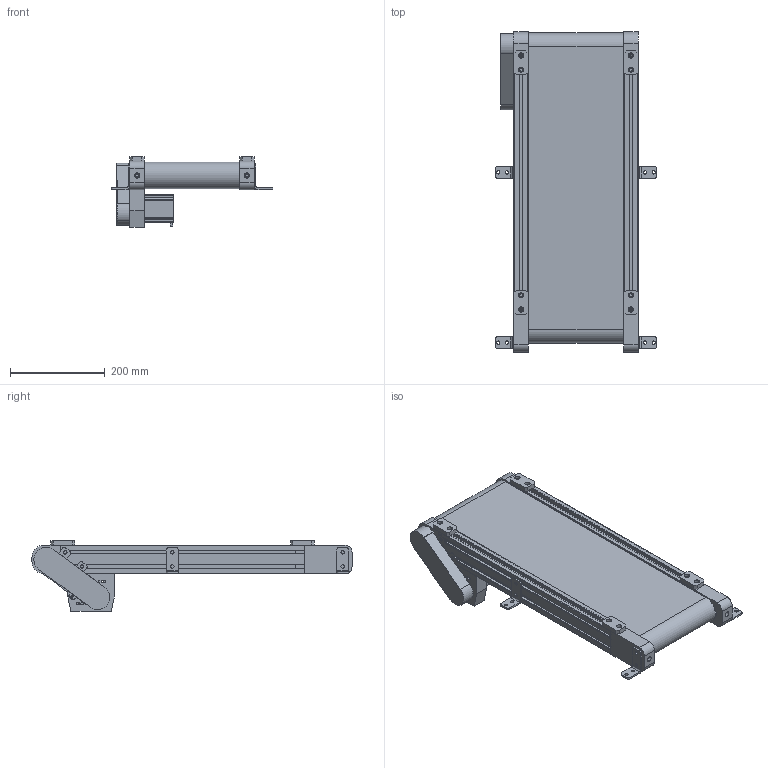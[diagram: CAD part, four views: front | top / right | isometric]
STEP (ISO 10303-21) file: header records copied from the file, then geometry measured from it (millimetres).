
FILE_DESCRIPTION(/* description */ (''),/* implementation_level */ '2;1');
FILE_NAME(/* name */ 'beltconveyor_a027_w200_l600.stp',/* time_stamp */ '2024-12-16T23:48:44+08:00',/* author */ (''),/* organization */ (''),/* preprocessor_version */ 'ST-DEVELOPER v16.7',/* originating_system */ 'SIEMENS PLM Software NX 12.0',/* authorisation */ '');
FILE_SCHEMA (('AUTOMOTIVE_DESIGN { 1 0 10303 214 3 1 1 1 }'));
Products named in the file (20): F03-P007安装座; F03-P002调整座(对称); F03-P006滚筒; F03-P003垫片; F03-N001铝型材HFS6-3060-517(MISUMI); F03-N005同步带轮HTPA25S5M100-A-P17(MISUM
I); angular contact ball bearings gb_Rolling bearings S7203 GB 292-94; F03-P002调整座; F03-P009封盖; F03-N007同步带HTBN360S5M-100(MISUMI); F03-P001轴; F03-N004同步带轮HTPA25S5M100-A-P8(MISUMI
); F03-P008罩子; F03-P004马达固定板; F03-P007安装座(对称); F03-P010支座; F03-P011连接块; F03-N002皮带L=1365 W=800 T=2; F03-N003步进电机YK60HB86-03A(YAKO); beltconveyor_a027_w200_l600
Assembly tree (29 placements, depth 2):
  beltconveyor_a027_w200_l600
    F03-N003步进电机YK60HB86-03A(YAKO)
    F03-N002皮带L=1365 W=800 T=2
    F03-P011连接块  x4
    F03-P010支座  x4
    F03-P007安装座(对称)
    F03-P004马达固定板
    F03-P008罩子
    F03-N004同步带轮HTPA25S5M100-A-P8(MISUMI
)
    F03-P001轴
    F03-N007同步带HTBN360S5M-100(MISUMI)
    F03-P009封盖
    F03-P002调整座
    angular contact ball bearings gb_Rolling bearings S7203 GB 292-94  x4
    F03-N005同步带轮HTPA25S5M100-A-P17(MISUM
I)
    F03-N001铝型材HFS6-3060-517(MISUMI)  x2
    F03-P003垫片
    F03-P006滚筒
    F03-P002调整座(对称)
    F03-P007安装座
Bounding box: 342.5 x 677 x 150 mm (x, y, z)
Volume: 2783217.2 mm3; surface area: 1796946.5 mm2
Topology: 65 solids, 65 shells, 2305 faces, 6983 edges, 4623 vertices
Faces by surface type: cylinder 802, plane 768, extrusion 369, torus 212, sphere 112, cone 42
Full cylindrical faces by diameter (mm): 17 x2, 22 x2, 50 x1
Entity records: 64961 total; most frequent: CARTESIAN_POINT 19035, ORIENTED_EDGE 10022, DIRECTION 8401, EDGE_CURVE 5011, VERTEX_POINT 3342, AXIS2_PLACEMENT_3D 2967, VECTOR 2467, LINE 2098
